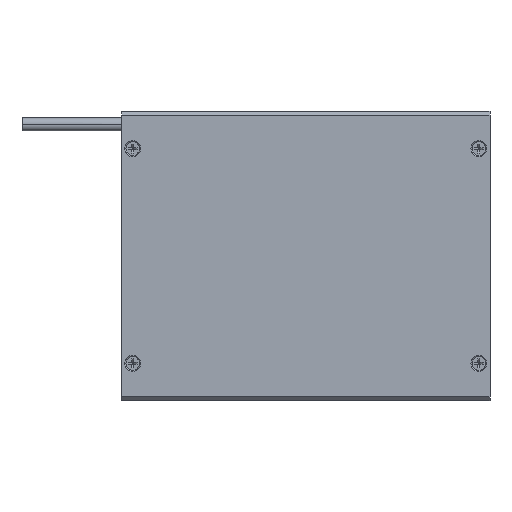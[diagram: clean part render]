
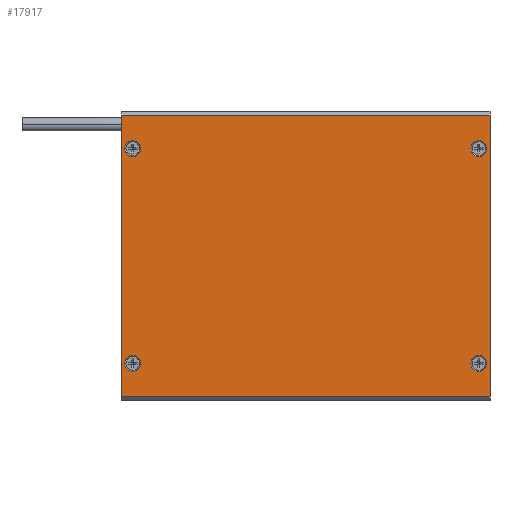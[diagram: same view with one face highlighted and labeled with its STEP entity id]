
A CAD part, front view. The second image highlights one B-rep face of the part: STEP entity #17917.
In plain terms, the highlighted planar face has unit normal (0, -1, 0).
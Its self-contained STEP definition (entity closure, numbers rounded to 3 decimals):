
#2900=DIRECTION('',(0.,0.,-1.));
#2901=VECTOR('',#2900,75.7);
#2902=CARTESIAN_POINT('',(-111.574,0.,-1.2));
#2903=LINE('',#2902,#2901);
#3864=CARTESIAN_POINT('',(-108.574,0.,-67.9));
#3865=DIRECTION('',(0.,-1.,0.));
#3866=DIRECTION('',(0.,0.,1.));
#3867=AXIS2_PLACEMENT_3D('',#3864,#3865,#3866);
#3869=CARTESIAN_POINT('',(-108.574,0.,-67.9));
#3870=DIRECTION('',(0.,-1.,0.));
#3871=DIRECTION('',(0.,0.,-1.));
#3872=AXIS2_PLACEMENT_3D('',#3869,#3870,#3871);
#3874=CARTESIAN_POINT('',(-108.574,0.,
-10.2));
#3875=DIRECTION('',(0.,-1.,0.));
#3876=DIRECTION('',(0.,0.,-1.));
#3877=AXIS2_PLACEMENT_3D('',#3874,#3875,#3876);
#3879=CARTESIAN_POINT('',(-108.574,0.,
-10.2));
#3880=DIRECTION('',(0.,-1.,0.));
#3881=DIRECTION('',(0.,0.,1.));
#3882=AXIS2_PLACEMENT_3D('',#3879,#3880,#3881);
#3884=CARTESIAN_POINT('',(-15.574,0.,-67.9));
#3885=DIRECTION('',(0.,-1.,0.));
#3886=DIRECTION('',(0.,0.,1.));
#3887=AXIS2_PLACEMENT_3D('',#3884,#3885,#3886);
#3889=CARTESIAN_POINT('',(-15.574,0.,-67.9));
#3890=DIRECTION('',(0.,-1.,0.));
#3891=DIRECTION('',(0.,0.,-1.));
#3892=AXIS2_PLACEMENT_3D('',#3889,#3890,#3891);
#3894=CARTESIAN_POINT('',(-15.574,0.,
-10.2));
#3895=DIRECTION('',(0.,-1.,0.));
#3896=DIRECTION('',(0.,0.,-1.));
#3897=AXIS2_PLACEMENT_3D('',#3894,#3895,#3896);
#3899=CARTESIAN_POINT('',(-15.574,0.,
-10.2));
#3900=DIRECTION('',(0.,-1.,0.));
#3901=DIRECTION('',(0.,0.,1.));
#3902=AXIS2_PLACEMENT_3D('',#3899,#3900,#3901);
#3904=DIRECTION('',(-1.,0.,0.));
#3905=VECTOR('',#3904,99.);
#3906=CARTESIAN_POINT('',(-12.574,0.,-76.9));
#3907=LINE('',#3906,#3905);
#3908=DIRECTION('',(-1.,0.,0.));
#3909=VECTOR('',#3908,99.);
#3910=CARTESIAN_POINT('',(-12.574,0.,-1.2));
#3911=LINE('',#3910,#3909);
#5580=DIRECTION('',(0.,0.,1.));
#5581=VECTOR('',#5580,75.7);
#5582=CARTESIAN_POINT('',(-12.574,0.,-76.9));
#5583=LINE('',#5582,#5581);
#10475=CARTESIAN_POINT('',(-12.574,0.,-1.2));
#10477=VERTEX_POINT('',#10475);
#10618=CARTESIAN_POINT('',(-111.574,0.,-1.2));
#10620=VERTEX_POINT('',#10618);
#10850=CARTESIAN_POINT('',(-15.574,0.,
-65.772));
#10851=CARTESIAN_POINT('',(-15.574,0.,
-70.028));
#10852=VERTEX_POINT('',#10850);
#10853=VERTEX_POINT('',#10851);
#10854=CARTESIAN_POINT('',(-15.574,0.,
-12.328));
#10855=CARTESIAN_POINT('',(-15.574,0.,
-8.073));
#10856=VERTEX_POINT('',#10854);
#10857=VERTEX_POINT('',#10855);
#10858=CARTESIAN_POINT('',(-12.574,0.,-76.9));
#10859=CARTESIAN_POINT('',(-111.574,0.,-76.9));
#10860=VERTEX_POINT('',#10858);
#10861=VERTEX_POINT('',#10859);
#10906=CARTESIAN_POINT('',(-108.574,0.,
-65.772));
#10907=CARTESIAN_POINT('',(-108.574,0.,
-70.028));
#10908=VERTEX_POINT('',#10906);
#10909=VERTEX_POINT('',#10907);
#10910=CARTESIAN_POINT('',(-108.574,0.,
-12.328));
#10911=CARTESIAN_POINT('',(-108.574,0.,
-8.073));
#10912=VERTEX_POINT('',#10910);
#10913=VERTEX_POINT('',#10911);
#17880=CARTESIAN_POINT('',(-12.574,0.,-2.2));
#17881=DIRECTION('',(0.,-1.,0.));
#17882=DIRECTION('',(1.,0.,0.));
#17883=AXIS2_PLACEMENT_3D('',#17880,#17881,#17882);
#17884=PLANE('',#17883);
#17886=ORIENTED_EDGE('',*,*,#17885,.F.);
#17887=ORIENTED_EDGE('',*,*,#17871,.T.);
#17888=ORIENTED_EDGE('',*,*,#16437,.F.);
#17890=ORIENTED_EDGE('',*,*,#17889,.F.);
#17891=EDGE_LOOP('',(#17886,#17887,#17888,#17890));
#17892=FACE_OUTER_BOUND('',#17891,.F.);
#17894=ORIENTED_EDGE('',*,*,#17893,.T.);
#17896=ORIENTED_EDGE('',*,*,#17895,.T.);
#17897=EDGE_LOOP('',(#17894,#17896));
#17898=FACE_BOUND('',#17897,.F.);
#17900=ORIENTED_EDGE('',*,*,#17899,.T.);
#17902=ORIENTED_EDGE('',*,*,#17901,.T.);
#17903=EDGE_LOOP('',(#17900,#17902));
#17904=FACE_BOUND('',#17903,.F.);
#17906=ORIENTED_EDGE('',*,*,#17905,.T.);
#17908=ORIENTED_EDGE('',*,*,#17907,.T.);
#17909=EDGE_LOOP('',(#17906,#17908));
#17910=FACE_BOUND('',#17909,.F.);
#17912=ORIENTED_EDGE('',*,*,#17911,.T.);
#17914=ORIENTED_EDGE('',*,*,#17913,.T.);
#17915=EDGE_LOOP('',(#17912,#17914));
#17916=FACE_BOUND('',#17915,.F.);
#17917=ADVANCED_FACE('',(#17892,#17898,#17904,#17910,#17916),#17884,.T.);
#3868=CIRCLE('',#3867,2.128);
#3873=CIRCLE('',#3872,2.128);
#3878=CIRCLE('',#3877,2.128);
#3883=CIRCLE('',#3882,2.128);
#3888=CIRCLE('',#3887,2.128);
#3893=CIRCLE('',#3892,2.128);
#3898=CIRCLE('',#3897,2.128);
#3903=CIRCLE('',#3902,2.128);
#16437=EDGE_CURVE('',#10620,#10861,#2903,.T.);
#17871=EDGE_CURVE('',#10860,#10861,#3907,.T.);
#17885=EDGE_CURVE('',#10860,#10477,#5583,.T.);
#17889=EDGE_CURVE('',#10477,#10620,#3911,.T.);
#17893=EDGE_CURVE('',#10912,#10913,#3878,.T.);
#17895=EDGE_CURVE('',#10913,#10912,#3883,.T.);
#17899=EDGE_CURVE('',#10852,#10853,#3888,.T.);
#17901=EDGE_CURVE('',#10853,#10852,#3893,.T.);
#17905=EDGE_CURVE('',#10856,#10857,#3898,.T.);
#17907=EDGE_CURVE('',#10857,#10856,#3903,.T.);
#17911=EDGE_CURVE('',#10908,#10909,#3868,.T.);
#17913=EDGE_CURVE('',#10909,#10908,#3873,.T.);
